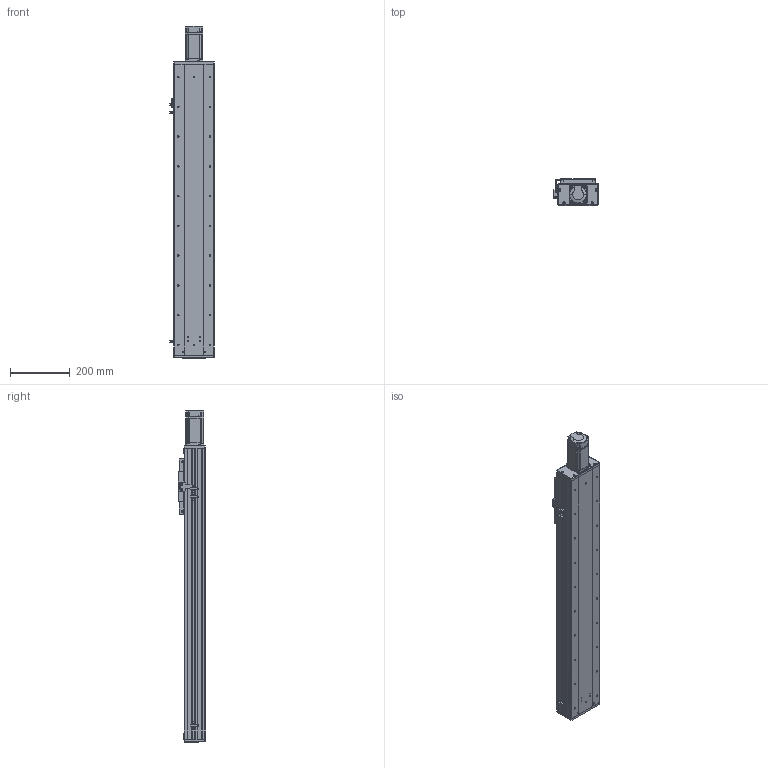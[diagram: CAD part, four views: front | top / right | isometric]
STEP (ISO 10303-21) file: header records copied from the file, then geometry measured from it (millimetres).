
FILE_DESCRIPTION (( 'STEP AP203' ), '1' );
FILE_NAME ('RY140F-L2020-300-MK.SLDASM_700.step', '2021-03-02T06:24:06', ( '盈信电脑' ), ( '东莞市道滘镇水果街19号' ), 'SwSTEP 2.0', 'SolidWorks 2012', '' );
FILE_SCHEMA (( 'CONFIG_CONTROL_DESIGN' ));
Length unit declared in the file: millimetre
Products named in the file (18): 覜茼ん672; RY140F-672覜茼んえ; RY140F-詩湍揤え; 侂狟400W侜督萇儂; RY140F-直连型材铝滑块(16丝杆); RY140F-直连前盖板(铝件）; RY140F-后盖板(铝件）; 15; RY140F-滅鳥奻裔; RY100F-詩湍揤踡謫; RY140F-詩湍幗謫粣; RY140F-300-MK眻蟀倰第奻裔啣_700; RY140F-300-MK眻蟀詩湍_700; RY140F-300-MK眻蟀倰第菁釱_700; RY140F-直连型材铝滑块连接座; 侐源滅袉蝶; 滅袉蝶18-10; RY140F-L2020-300-MK.SLDASM_700
Assembly tree (22 placements, depth 3):
  RY140F-L2020-300-MK.SLDASM_700
    RY140F-300-MK眻蟀倰第菁釱_700
    RY140F-300-MK眻蟀倰第奻裔啣_700  x2
    RY140F-300-MK眻蟀詩湍_700
    RY140F-直连型材铝滑块连接座
    RY140F-滅鳥奻裔
    RY140F-詩湍幗謫粣
    RY100F-詩湍揤踡謫
    RY140F-直连型材铝滑块(16丝杆)
    RY140F-直连前盖板(铝件）
    RY140F-后盖板(铝件）
    侂狟400W侜督萇儂
      15
    覜茼ん672  x3
    RY140F-672覜茼んえ
    RY140F-詩湍揤え  x2
    滅袉蝶18-10
    侐源滅袉蝶  x2
Bounding box: 148.7 x 91 x 1115.5 mm (x, y, z)
Volume: 3864855.7 mm3; surface area: 1330252 mm2
Topology: 21 solids, 21 shells, 1960 faces, 5393 edges, 3456 vertices
Faces by surface type: cylinder 894, plane 854, cone 190, bspline 18, torus 4
Entity records: 56830 total; most frequent: CARTESIAN_POINT 11397, DIRECTION 9272, ORIENTED_EDGE 8910, EDGE_CURVE 4455, AXIS2_PLACEMENT_3D 3319, VERTEX_POINT 2924, LINE 2634, VECTOR 2634
